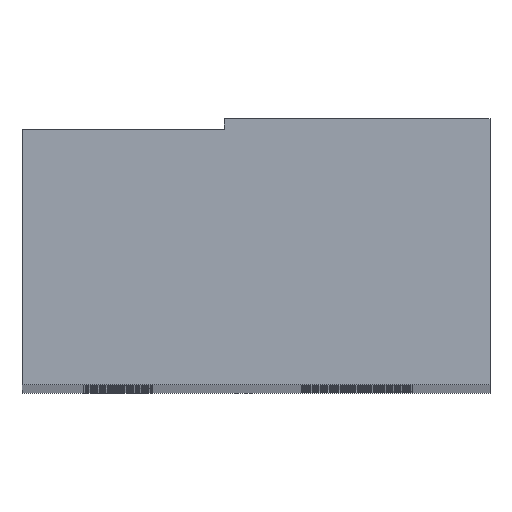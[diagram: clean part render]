
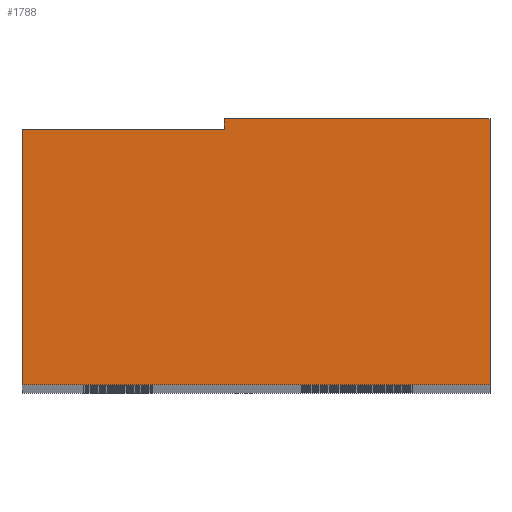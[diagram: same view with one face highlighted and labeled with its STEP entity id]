
A CAD part, top view. The second image highlights one B-rep face of the part: STEP entity #1788.
In plain terms, the highlighted planar face has unit normal (0, 0, 1).
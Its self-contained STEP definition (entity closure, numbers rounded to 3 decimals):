
#18=LINE('',#2695,#36);
#21=LINE('',#2701,#39);
#24=LINE('',#2745,#42);
#30=LINE('',#3126,#48);
#31=LINE('',#3128,#49);
#32=LINE('',#3129,#50);
#36=VECTOR('',#2115,1.);
#39=VECTOR('',#2120,19.);
#42=VECTOR('',#2163,24.);
#48=VECTOR('',#2653,25.);
#49=VECTOR('',#2656,44.);
#50=VECTOR('',#2657,25.);
#93=PLANE('',#2073);
#491=FACE_OUTER_BOUND('',#752,.T.);
#752=EDGE_LOOP('',(#1587,#1588,#1589,#1590,#1591,#1592));
#979=VERTEX_POINT('',#2689);
#981=VERTEX_POINT('',#2693);
#983=VERTEX_POINT('',#2699);
#1004=VERTEX_POINT('',#2743);
#1136=VERTEX_POINT('',#3122);
#1137=VERTEX_POINT('',#3124);
#1149=EDGE_CURVE('',#979,#981,#18,.T.);
#1152=EDGE_CURVE('',#981,#983,#21,.T.);
#1174=EDGE_CURVE('',#1004,#983,#24,.T.);
#1309=EDGE_CURVE('',#1136,#1137,#30,.T.);
#1310=EDGE_CURVE('',#1004,#1136,#31,.T.);
#1311=EDGE_CURVE('',#979,#1137,#32,.T.);
#1587=ORIENTED_EDGE('',*,*,#1152,.T.);
#1588=ORIENTED_EDGE('',*,*,#1174,.F.);
#1589=ORIENTED_EDGE('',*,*,#1310,.T.);
#1590=ORIENTED_EDGE('',*,*,#1309,.T.);
#1591=ORIENTED_EDGE('',*,*,#1311,.F.);
#1592=ORIENTED_EDGE('',*,*,#1149,.T.);
#1788=ADVANCED_FACE('',(#491),#93,.T.);
#2073=AXIS2_PLACEMENT_3D('',#3127,#2654,#2655);
#2115=DIRECTION('',(0.,-1.,0.));
#2120=DIRECTION('',(-1.,0.,0.));
#2163=DIRECTION('',(0.,1.,0.));
#2653=DIRECTION('',(0.,1.,0.));
#2654=DIRECTION('center_axis',(0.,0.,1.));
#2655=DIRECTION('ref_axis',(1.,0.,0.));
#2656=DIRECTION('',(1.,0.,0.));
#2657=DIRECTION('',(1.,0.,0.));
#2689=CARTESIAN_POINT('',(-3.,25.,237.5));
#2693=CARTESIAN_POINT('',(-3.,24.,237.5));
#2695=CARTESIAN_POINT('',(-3.,12.5,237.5));
#2699=CARTESIAN_POINT('',(-22.,24.,237.5));
#2701=CARTESIAN_POINT('',(-17.25,24.,237.5));
#2743=CARTESIAN_POINT('',(-22.,0.,237.5));
#2745=CARTESIAN_POINT('',(-22.,0.,237.5));
#3122=CARTESIAN_POINT('',(22.,0.,237.5));
#3124=CARTESIAN_POINT('',(22.,25.,237.5));
#3126=CARTESIAN_POINT('',(22.,0.,237.5));
#3127=CARTESIAN_POINT('Origin',(-22.,0.,237.5));
#3128=CARTESIAN_POINT('',(-22.,0.,237.5));
#3129=CARTESIAN_POINT('',(-22.,25.,237.5));
